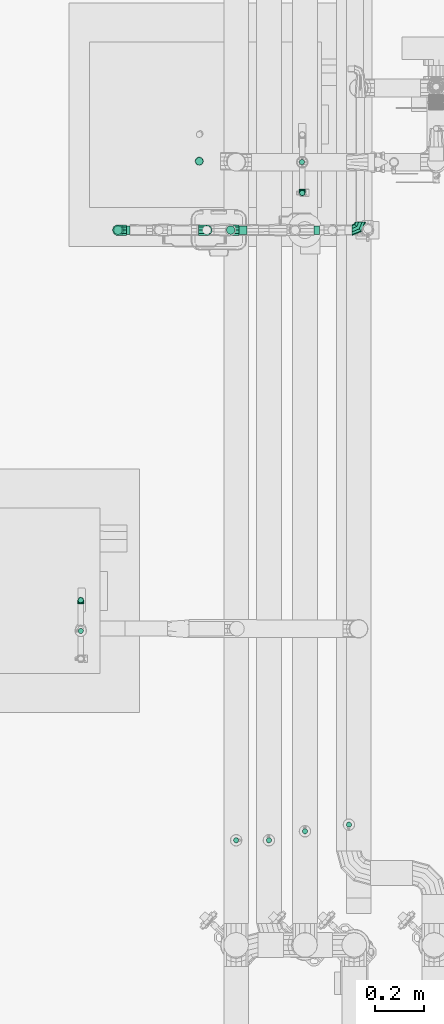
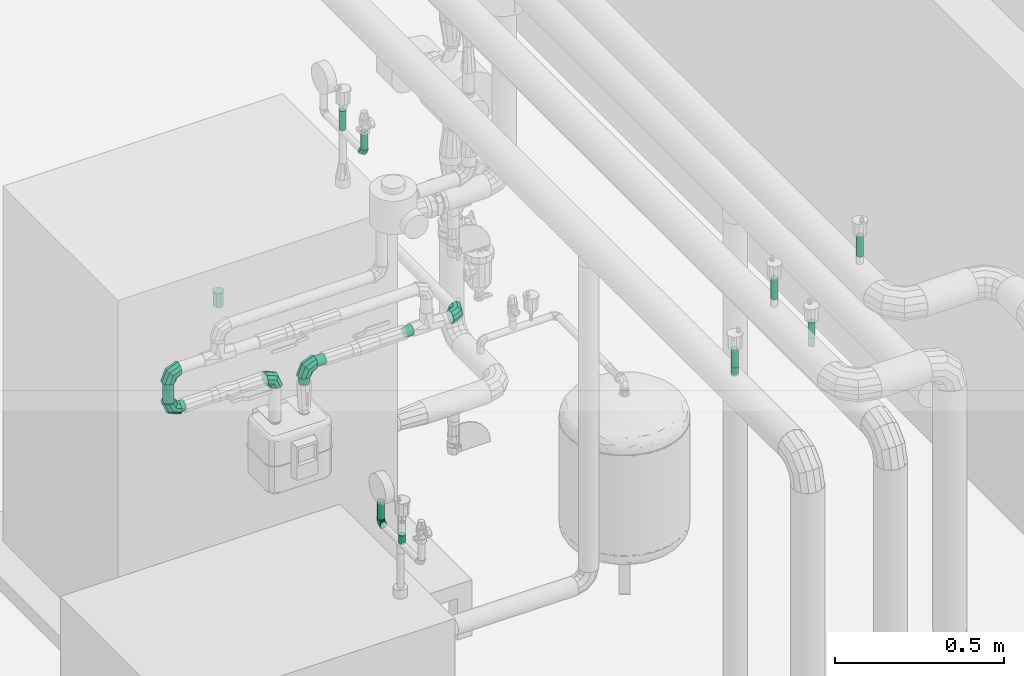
# One storey, part 27 of 43: 13 flow segments, 11 flow fittings.
"""IFC2X3 building model written with IfcOpenShell, lengths in millimetres."""

from ifc_helpers import new_model, entity, si_unit, converted_unit, derived_unit, direction, frame, frame_2d, origin, origin_2d_with_axis, place, context, subcontext, project, spatial, circle, extrude, faceted_brep, source, transform, mapped, material, material_list, type_object, type_shapes, element, save


model = new_model("IFC2X3")

# Units and contexts
model_context = context("Model", 3, precision=0.01, world=origin(), true_north=direction((6.123031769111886e-17, 1.0)))
body_context = subcontext(model_context, "Body", "Model", "MODEL_VIEW")
ifc_project = project(units=[si_unit("LENGTHUNIT", "METRE", prefix="MILLI"), si_unit("AREAUNIT", "SQUARE_METRE"), si_unit("VOLUMEUNIT", "CUBIC_METRE"), converted_unit("PLANEANGLEUNIT", "DEGREE", entity("IfcRatioMeasure", 0.017453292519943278), si_unit("PLANEANGLEUNIT", "RADIAN"), dimensions=[0, 0, 0, 0, 0, 0, 0]), si_unit("MASSUNIT", "GRAM", prefix="KILO"), derived_unit("MASSDENSITYUNIT", [(si_unit("MASSUNIT", "GRAM", prefix="KILO"), 1), (si_unit("LENGTHUNIT", "METRE"), -3)]), derived_unit("MOMENTOFINERTIAUNIT", [(si_unit("LENGTHUNIT", "METRE"), 4)]), si_unit("TIMEUNIT", "SECOND"), si_unit("FREQUENCYUNIT", "HERTZ"), si_unit("THERMODYNAMICTEMPERATUREUNIT", "DEGREE_CELSIUS"), derived_unit("THERMALTRANSMITTANCEUNIT", [(si_unit("MASSUNIT", "GRAM", prefix="KILO"), 1), (si_unit("THERMODYNAMICTEMPERATUREUNIT", "KELVIN"), -1), (si_unit("TIMEUNIT", "SECOND"), -3)]), derived_unit("VOLUMETRICFLOWRATEUNIT", [(si_unit("LENGTHUNIT", "METRE"), 3), (si_unit("TIMEUNIT", "SECOND"), -1)]), derived_unit("MASSFLOWRATEUNIT", [(si_unit("MASSUNIT", "GRAM", prefix="KILO"), 1), (si_unit("TIMEUNIT", "SECOND"), -1)]), derived_unit("ROTATIONALFREQUENCYUNIT", [(si_unit("TIMEUNIT", "SECOND"), -1)]), si_unit("ELECTRICCURRENTUNIT", "AMPERE"), si_unit("ELECTRICVOLTAGEUNIT", "VOLT"), si_unit("POWERUNIT", "WATT"), si_unit("FORCEUNIT", "NEWTON", prefix="KILO"), si_unit("ILLUMINANCEUNIT", "LUX"), si_unit("LUMINOUSFLUXUNIT", "LUMEN"), si_unit("LUMINOUSINTENSITYUNIT", "CANDELA"), derived_unit("USERDEFINED", [(si_unit("MASSUNIT", "GRAM", prefix="KILO"), -1), (si_unit("LENGTHUNIT", "METRE"), -2), (si_unit("TIMEUNIT", "SECOND"), 3), (si_unit("LUMINOUSFLUXUNIT", "LUMEN"), 1)]), derived_unit("SOUNDPOWERUNIT", [(si_unit("MASSUNIT", "GRAM", prefix="KILO"), 1), (si_unit("LENGTHUNIT", "METRE"), 2), (si_unit("TIMEUNIT", "SECOND"), -3)]), derived_unit("SOUNDPRESSUREUNIT", [(si_unit("MASSUNIT", "GRAM", prefix="KILO"), 1), (si_unit("LENGTHUNIT", "METRE"), -1), (si_unit("TIMEUNIT", "SECOND"), -2)]), derived_unit("LINEARVELOCITYUNIT", [(si_unit("LENGTHUNIT", "METRE"), 1), (si_unit("TIMEUNIT", "SECOND"), -1)]), si_unit("PRESSUREUNIT", "PASCAL"), derived_unit("USERDEFINED", [(si_unit("LENGTHUNIT", "METRE"), -2), (si_unit("MASSUNIT", "GRAM", prefix="KILO"), 1), (si_unit("TIMEUNIT", "SECOND"), -2)]), derived_unit("LINEARFORCEUNIT", [(si_unit("MASSUNIT", "GRAM", prefix="KILO"), 1), (si_unit("LENGTHUNIT", "METRE"), 1), (si_unit("TIMEUNIT", "SECOND"), -2), (si_unit("LENGTHUNIT", "METRE"), -1)]), derived_unit("PLANARFORCEUNIT", [(si_unit("MASSUNIT", "GRAM", prefix="KILO"), 1), (si_unit("LENGTHUNIT", "METRE"), 1), (si_unit("TIMEUNIT", "SECOND"), -2), (si_unit("LENGTHUNIT", "METRE"), -2)])], contexts=[model_context])

# Site, building, storey
site_placement = place(None, origin())
site = spatial("IfcSite", under=ifc_project, at=site_placement, Name="Default", CompositionType="ELEMENT")
building_placement = place(site_placement, origin())
building = spatial("IfcBuilding", under=site, at=building_placement, CompositionType="ELEMENT")
storey_placement = place(building_placement, frame((0.0, 0.0, 270.0)))
storey = spatial("IfcBuildingStorey", under=building, at=storey_placement, Name="Niveau 0", CompositionType="ELEMENT", Elevation=270.0)

# Flow segments
pipe_segment_type_1 = type_object("IfcPipeSegmentType", Name="Canalisation:tube acier", PredefinedType="NOTDEFINED")
flow_segment_1_placement = place(storey_placement, origin())
element("IfcFlowSegment", 1, at=flow_segment_1_placement, inside=storey, type_object=pipe_segment_type_1, Name="Canalisation:tube acier", ObjectType="Canalisation:tube acier", context=body_context, shape_type="SweptSolid", body=[
    extrude(circle(Radius=10.668, at=origin_2d_with_axis()), frame((-3141.435930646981, -11414.068073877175, 1706.6450211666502), z_axis=(0.0, 0.0, 1.0), x_axis=(-1.0, 0.0, 0.0)), (0.0, 0.0, 1.0), 64.09101562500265),
])
flow_segment_2_placement = place(storey_placement, origin())
element("IfcFlowSegment", 2, at=flow_segment_2_placement, inside=storey, type_object=pipe_segment_type_1, Name="Canalisation:tube acier", ObjectType="Canalisation:tube acier", context=body_context, shape_type="SweptSolid", body=[
    extrude(circle(Radius=10.668, at=origin_2d_with_axis()), frame((-2231.7732561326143, -9741.311926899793, 1707.5815748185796), z_axis=(0.0, 0.0, 1.0), x_axis=(-1.0, 0.0, 0.0)), (0.0, 0.0, 1.0), 63.15446197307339),
])
flow_segment_3_placement = place(storey_placement, origin())
element("IfcFlowSegment", 3, at=flow_segment_3_placement, inside=storey, type_object=pipe_segment_type_1, Name="Canalisation:tube acier", ObjectType="Canalisation:tube acier", context=body_context, shape_type="SweptSolid", body=[
    extrude(circle(Radius=10.668, at=frame_2d((0.0, -1.0828671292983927e-12), x_axis=(1.0, 0.0))), frame((-2233.2357465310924, -9614.739383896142, 1700.6679999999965), z_axis=(0.0, 0.0, 1.0), x_axis=(-1.0, 0.0, 0.0)), (0.0, 0.0, 1.0), 70.06803679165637),
])
flow_segment_4_placement = place(storey_placement, origin())
element("IfcFlowSegment", 4, at=flow_segment_4_placement, inside=storey, type_object=pipe_segment_type_1, Name="Canalisation:tube acier", ObjectType="Canalisation:tube acier", context=body_context, shape_type="SweptSolid", body=[
    extrude(circle(Radius=10.668, at=origin_2d_with_axis()), frame((-2503.263180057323, -12400.0, 2629.815858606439), z_axis=(0.0, 0.0, 1.0), x_axis=(-1.0, 0.0, 0.0)), (0.0, 0.0, 1.0), 64.48297292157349),
])
flow_segment_5_placement = place(storey_placement, origin())
element("IfcFlowSegment", 5, at=flow_segment_5_placement, inside=storey, type_object=pipe_segment_type_1, Name="Canalisation:tube acier", ObjectType="Canalisation:tube acier", context=body_context, shape_type="SweptSolid", body=[
    extrude(circle(Radius=10.668, at=origin_2d_with_axis()), frame((-2220.52990382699, -12363.124121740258, 2615.353718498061), z_axis=(0.0, 0.0, 1.0), x_axis=(-1.0, 0.0, 0.0)), (0.0, 0.0, 1.0), 54.99999999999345),
])
flow_segment_6_placement = place(storey_placement, origin())
element("IfcFlowSegment", 6, at=flow_segment_6_placement, inside=storey, type_object=pipe_segment_type_1, Name="Canalisation:tube acier", ObjectType="Canalisation:tube acier", context=body_context, shape_type="SweptSolid", body=[
    extrude(circle(Radius=10.668, at=origin_2d_with_axis()), frame((-2368.7954809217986, -12400.0, 2827.7650556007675), z_axis=(0.0, 0.0, 1.0), x_axis=(-1.0, 0.0, 0.0)), (0.0, 0.0, 1.0), 74.99999999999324),
])
flow_segment_7_placement = place(storey_placement, origin())
element("IfcFlowSegment", 7, at=flow_segment_7_placement, inside=storey, type_object=pipe_segment_type_1, Name="Canalisation:tube acier", ObjectType="Canalisation:tube acier", context=body_context, shape_type="SweptSolid", body=[
    extrude(circle(Radius=10.668, at=origin_2d_with_axis()), frame((-2040.0, -12335.84006919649, 2827.788358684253), z_axis=(0.0, 0.0, 1.0), x_axis=(-1.0, 0.0, 0.0)), (0.0, 0.0, 1.0), 74.97669691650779),
])
flow_segment_8_placement = place(storey_placement, origin())
element("IfcFlowSegment", 8, at=flow_segment_8_placement, inside=storey, type_object=pipe_segment_type_1, Name="Canalisation:tube acier", ObjectType="Canalisation:tube acier", context=body_context, shape_type="SweptSolid", body=[
    extrude(circle(Radius=16.7005, at=origin_2d_with_axis()), frame((-2654.769183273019, -9611.0, 1262.028181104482)), (0.0, 0.0, 1.0), 2.959318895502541),
])

# Flow fittings
ifc_material = material(Name="<Unnamed>")
ifc_material_list_1 = material_list([ifc_material, ifc_material])
pipe_fitting_type_1 = type_object("IfcPipeFittingType", Name="Coude - Générique:Standard", PredefinedType="NOTDEFINED", material=ifc_material_list_1)
shared_shape_1 = source(origin(), body_context, "Body", "Brep", [
    faceted_brep([(4.326975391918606, -4.326975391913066, 0.0), (1.6948585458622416, -1.6948585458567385, -8.986609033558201), (8.986609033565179, 15.908984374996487, -8.986609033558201), (12.70898437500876, 15.908984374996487, 0.0), (-4.659633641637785, 4.659633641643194, -12.708984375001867), (0.0, 15.908984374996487, -12.708984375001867), (-11.014125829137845, 11.014125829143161, -8.986609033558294), (-8.986609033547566, 15.908984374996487, -8.986609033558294), (-13.646242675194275, 13.646242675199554, 0.0), (-12.708984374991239, 15.908984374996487, 0.0), (-11.014125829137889, 11.014125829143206, 8.986609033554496), (-8.986609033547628, 15.908984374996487, 8.986609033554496), (-4.6596336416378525, 4.6596336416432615, 12.708984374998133), (0.0, 15.908984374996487, 12.708984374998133), (1.6948585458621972, -1.6948585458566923, 8.986609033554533), (8.986609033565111, 15.908984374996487, 8.986609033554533), (-15.908984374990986, -12.708984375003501, 0.0), (-15.908984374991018, -8.98660903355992, -8.986609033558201), (-15.9089843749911, 0.0, -12.708984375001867), (-15.908984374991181, 8.986609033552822, -8.986609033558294), (-15.908984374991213, 12.708984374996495, 0.0), (-15.908984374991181, 8.986609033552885, 8.986609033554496), (-15.9089843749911, 0.0, 12.708984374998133), (-15.908984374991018, -8.986609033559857, 8.986609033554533)], [[[0, 1, 2, 3]], [[1, 4, 5, 2]], [[4, 6, 7, 5]], [[6, 8, 9, 7]], [[8, 10, 11, 9]], [[10, 12, 13, 11]], [[12, 14, 15, 13]], [[14, 0, 3, 15]], [[16, 17, 1, 0]], [[17, 18, 4, 1]], [[18, 19, 6, 4]], [[19, 20, 8, 6]], [[20, 21, 10, 8]], [[21, 22, 12, 10]], [[22, 23, 14, 12]], [[23, 16, 0, 14]], [[3, 2, 5, 7, 9, 11, 13, 15]], [[23, 22, 21, 20, 19, 18, 17, 16]]]),
])
type_shapes(pipe_fitting_type_1, [shared_shape_1])
for number, where, z_axis, x_axis in (
    (9, (-3141.4359306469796, -11414.06807387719, 1690.7360367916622), (1.0, 0.0, 0.0), (0.0, 1.0, 0.0)),
    (10, (-2231.773256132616, -9741.311926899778, 1691.6725904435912), (-1.0, 0.0, 0.0), (0.0, -1.0, 0.0)),
):
    element("IfcFlowFitting", number, at=place(storey_placement, frame(where, z_axis=z_axis, x_axis=x_axis)), inside=storey, type_object=pipe_fitting_type_1, material=ifc_material, Name="Coude - Générique:Standard", ObjectType="Coude - Générique:Standard", context=body_context, shape_type="MappedRepresentation", body=[
        mapped(shared_shape_1, transform((0.0, 0.0, 0.0), scale=1.0)),
    ])
pipe_fitting_type_2 = type_object("IfcPipeFittingType", Name="Piquage Acier Noir droit:Longueur = 25", PredefinedType="NOTDEFINED", material=ifc_material)
shared_shape_2 = source(origin(), body_context, "Body", "Brep", [
    faceted_brep([(-6.095999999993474, 5.324999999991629, -9.223170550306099), (-6.095999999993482, 2.756422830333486, -10.287110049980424), (-6.0959999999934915, 0.0, -10.650000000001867), (-6.095999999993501, -2.7564228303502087, -10.287110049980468), (-6.095999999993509, -5.325000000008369, -9.223170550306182), (-6.095999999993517, -7.530687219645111, -7.530687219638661), (-6.0959999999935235, -9.223170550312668, -5.325000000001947), (-6.095999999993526, -10.287110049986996, -2.7564228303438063), (-6.095999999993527, -10.650000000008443, 0.0), (-6.095999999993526, -10.287110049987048, 2.7564228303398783), (-6.0959999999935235, -9.22317055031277, 5.3249999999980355), (-6.095999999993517, -7.530687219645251, 7.530687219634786), (-6.095999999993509, -5.3250000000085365, 9.22317055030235), (-6.095999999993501, -2.7564228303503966, 10.287110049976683), (-6.0959999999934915, 0.0, 10.649999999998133), (-6.095999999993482, 2.7564228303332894, 10.287110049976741), (-6.095999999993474, 5.324999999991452, 9.223170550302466), (-6.095999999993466, 7.530687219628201, 7.530687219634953), (-6.0959999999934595, 9.223170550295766, 5.324999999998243), (-6.095999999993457, 10.2871100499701, 2.7564228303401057), (-6.095999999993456, 10.649999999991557, 0.0), (-6.095999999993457, 10.287110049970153, -2.756422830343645), (-6.0959999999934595, 9.223170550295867, -5.325000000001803), (-6.095999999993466, 7.530687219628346, -7.530687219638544), (0.0, -10.28711004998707, 2.7564228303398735), (0.0, -10.650000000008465, 0.0), (25.0, -10.650000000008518, 0.0), (25.0, -10.287110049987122, 2.7564228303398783), (0.0, -9.22317055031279, 5.3249999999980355), (25.0, -9.223170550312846, 5.3249999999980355), (0.0, -7.530687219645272, 7.530687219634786), (25.0, -7.530687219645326, 7.530687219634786), (25.0, -5.325000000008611, 9.22317055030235), (0.0, -5.325000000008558, 9.22317055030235), (25.0, -2.756422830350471, 10.287110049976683), (0.0, -2.756422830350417, 10.287110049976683), (25.0, 0.0, 10.649999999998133), (0.0, 0.0, 10.649999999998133), (0.0, 5.324999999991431, 9.223170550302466), (0.0, 2.756422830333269, 10.287110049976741), (25.0, 2.756422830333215, 10.287110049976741), (25.0, 5.324999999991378, 9.223170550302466), (0.0, 7.53068721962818, 7.530687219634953), (25.0, 7.530687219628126, 7.530687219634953), (0.0, 9.223170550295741, 5.324999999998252), (25.0, 9.223170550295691, 5.324999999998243), (25.0, 10.287110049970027, 2.7564228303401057), (0.0, 10.287110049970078, 2.7564228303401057), (25.0, 10.649999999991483, 0.0), (0.0, 10.649999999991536, 0.0), (0.0, 10.287110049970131, -2.756422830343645), (25.0, 10.287110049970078, -2.756422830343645), (0.0, 9.223170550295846, -5.325000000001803), (25.0, 9.223170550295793, -5.325000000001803), (0.0, 7.530687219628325, -7.530687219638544), (25.0, 7.530687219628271, -7.530687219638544), (25.0, 5.3249999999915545, -9.223170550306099), (0.0, 5.3249999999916, -9.223170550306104), (25.0, 2.7564228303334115, -10.287110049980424), (0.0, 2.756422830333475, -10.287110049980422), (25.0, 0.0, -10.650000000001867), (0.0, 0.0, -10.650000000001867), (0.0, -5.325000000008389, -9.223170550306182), (0.0, -2.7564228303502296, -10.287110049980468), (25.0, -2.7564228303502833, -10.287110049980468), (25.0, -5.325000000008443, -9.223170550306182), (0.0, -7.530687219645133, -7.530687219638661), (25.0, -7.530687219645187, -7.530687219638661), (0.0, -9.22317055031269, -5.325000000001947), (25.0, -9.223170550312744, -5.325000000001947), (25.0, -10.28711004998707, -2.7564228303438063), (0.0, -10.287110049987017, -2.7564228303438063)], [[[0, 1, 2, 3, 4, 5, 6, 7, 8, 9, 10, 11, 12, 13, 14, 15, 16, 17, 18, 19, 20, 21, 22, 23]], [[24, 9, 8, 25, 26, 27]], [[28, 10, 9, 24, 27, 29]], [[11, 30, 31, 32, 33, 12]], [[28, 29, 31, 30, 11, 10]], [[12, 33, 32, 34, 35, 13]], [[13, 35, 34, 36, 37, 14]], [[38, 16, 15, 39, 40, 41]], [[42, 17, 16, 38, 41, 43]], [[18, 44, 45, 46, 47, 19]], [[42, 43, 45, 44, 18, 17]], [[19, 47, 46, 48, 49, 20]], [[15, 14, 37, 36, 40, 39]], [[50, 21, 20, 49, 48, 51]], [[52, 22, 21, 50, 51, 53]], [[23, 54, 55, 56, 57, 0]], [[52, 53, 55, 54, 23, 22]], [[0, 57, 56, 58, 59, 1]], [[1, 59, 58, 60, 61, 2]], [[62, 4, 3, 63, 64, 65]], [[66, 5, 4, 62, 65, 67]], [[6, 68, 69, 70, 71, 7]], [[66, 67, 69, 68, 6, 5]], [[7, 71, 70, 26, 25, 8]], [[3, 2, 61, 60, 64, 63]], [[60, 58, 56, 55, 53, 51, 48, 46, 45, 43, 41, 40, 36, 34, 32, 31, 29, 27, 26, 70, 69, 67, 65, 64]]]),
])
type_shapes(pipe_fitting_type_2, [shared_shape_2])
flow_fitting_1_placement = place(storey_placement, frame((-3141.4359306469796, -11540.055119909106, 1701.4040367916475), z_axis=(-1.0, 0.0, 0.0), x_axis=(0.0, 0.0, 1.0)))
element("IfcFlowFitting", 11, at=flow_fitting_1_placement, inside=storey, type_object=pipe_fitting_type_2, material=ifc_material, Name="Piquage Acier Noir droit:Longueur = 25", ObjectType="Piquage Acier Noir droit:Longueur = 25", context=body_context, shape_type="MappedRepresentation", body=[
    mapped(shared_shape_2, transform((0.0, 0.0, 0.0), scale=1.0)),
])
pipe_fitting_type_3 = type_object("IfcPipeFittingType", Name="Piquage Acier Noir droit:Longueur = 25", PredefinedType="NOTDEFINED", material=ifc_material)
shared_shape_3 = source(origin(), body_context, "Body", "Brep", [
    faceted_brep([(-6.6526919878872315, 0.0, -10.650000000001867), (-6.652691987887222, -2.756422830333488, -10.287110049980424), (-6.652691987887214, -5.324999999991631, -9.223170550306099), (-6.652691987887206, -7.530687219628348, -7.530687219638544), (-6.6526919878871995, -9.223170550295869, -5.325000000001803), (-6.652691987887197, -10.287110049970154, -2.756422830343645), (-6.652691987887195, -10.649999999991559, 0.0), (-6.652691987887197, -10.287110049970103, 2.7564228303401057), (-6.6526919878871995, -9.223170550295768, 5.324999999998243), (-6.652691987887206, -7.530687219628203, 7.530687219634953), (-6.652691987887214, -5.324999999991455, 9.223170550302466), (-6.652691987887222, -2.756422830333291, 10.287110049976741), (-6.6526919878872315, 0.0, 10.649999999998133), (-6.652691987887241, 2.756422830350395, 10.287110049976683), (-6.652691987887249, 5.325000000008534, 9.22317055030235), (-6.652691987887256, 7.530687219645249, 7.530687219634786), (-6.6526919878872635, 9.223170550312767, 5.3249999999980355), (-6.652691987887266, 10.287110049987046, 2.7564228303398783), (-6.652691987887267, 10.650000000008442, 0.0), (-6.652691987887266, 10.287110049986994, -2.7564228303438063), (-6.6526919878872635, 9.223170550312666, -5.325000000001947), (-6.652691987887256, 7.53068721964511, -7.530687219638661), (-6.652691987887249, 5.325000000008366, -9.223170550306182), (-6.652691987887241, 2.756422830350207, -10.287110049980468), (0.0, 10.650000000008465, 0.0), (0.0, 10.28711004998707, 2.7564228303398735), (25.0, 10.287110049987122, 2.7564228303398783), (25.0, 10.650000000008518, 0.0), (0.0, 9.22317055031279, 5.3249999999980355), (25.0, 9.223170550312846, 5.3249999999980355), (0.0, 5.325000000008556, 9.22317055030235), (25.0, 5.325000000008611, 9.22317055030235), (25.0, 7.530687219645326, 7.530687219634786), (0.0, 7.530687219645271, 7.530687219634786), (0.0, 2.7564228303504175, 10.287110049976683), (25.0, 2.756422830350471, 10.287110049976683), (0.0, 0.0, 10.649999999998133), (25.0, 0.0, 10.649999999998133), (0.0, -2.7564228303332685, 10.287110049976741), (0.0, -5.324999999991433, 9.223170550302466), (25.0, -5.324999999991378, 9.223170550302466), (25.0, -2.756422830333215, 10.287110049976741), (0.0, -7.530687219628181, 7.530687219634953), (25.0, -7.530687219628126, 7.530687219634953), (0.0, -10.287110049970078, 2.7564228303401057), (25.0, -10.287110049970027, 2.7564228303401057), (25.0, -9.223170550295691, 5.324999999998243), (0.0, -9.223170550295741, 5.324999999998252), (0.0, -10.649999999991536, 0.0), (25.0, -10.649999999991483, 0.0), (0.0, -10.287110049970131, -2.756422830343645), (25.0, -10.287110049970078, -2.756422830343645), (0.0, -9.223170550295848, -5.325000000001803), (25.0, -9.223170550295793, -5.325000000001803), (0.0, -5.324999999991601, -9.223170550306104), (25.0, -5.3249999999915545, -9.223170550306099), (25.0, -7.530687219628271, -7.530687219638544), (0.0, -7.530687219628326, -7.530687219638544), (0.0, -2.7564228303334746, -10.287110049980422), (25.0, -2.7564228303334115, -10.287110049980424), (0.0, 0.0, -10.650000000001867), (25.0, 0.0, -10.650000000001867), (0.0, 2.75642283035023, -10.287110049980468), (0.0, 5.325000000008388, -9.223170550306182), (25.0, 5.325000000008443, -9.223170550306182), (25.0, 2.7564228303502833, -10.287110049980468), (0.0, 7.530687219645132, -7.530687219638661), (25.0, 7.530687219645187, -7.530687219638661), (0.0, 10.287110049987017, -2.7564228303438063), (25.0, 10.28711004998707, -2.7564228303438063), (25.0, 9.223170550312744, -5.325000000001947), (0.0, 9.22317055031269, -5.325000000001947)], [[[0, 1, 2, 3, 4, 5, 6, 7, 8, 9, 10, 11, 12, 13, 14, 15, 16, 17, 18, 19, 20, 21, 22, 23]], [[24, 18, 17, 25, 26, 27]], [[25, 17, 16, 28, 29, 26]], [[30, 31, 32, 33, 15, 14]], [[16, 15, 33, 32, 29, 28]], [[34, 35, 31, 30, 14, 13]], [[12, 36, 37, 35, 34, 13]], [[38, 11, 10, 39, 40, 41]], [[39, 10, 9, 42, 43, 40]], [[44, 45, 46, 47, 8, 7]], [[9, 8, 47, 46, 43, 42]], [[48, 49, 45, 44, 7, 6]], [[38, 41, 37, 36, 12, 11]], [[48, 6, 5, 50, 51, 49]], [[50, 5, 4, 52, 53, 51]], [[54, 55, 56, 57, 3, 2]], [[4, 3, 57, 56, 53, 52]], [[58, 59, 55, 54, 2, 1]], [[0, 60, 61, 59, 58, 1]], [[62, 23, 22, 63, 64, 65]], [[63, 22, 21, 66, 67, 64]], [[68, 69, 70, 71, 20, 19]], [[21, 20, 71, 70, 67, 66]], [[24, 27, 69, 68, 19, 18]], [[62, 65, 61, 60, 0, 23]], [[55, 59, 61, 65, 64, 67, 70, 69, 27, 26, 29, 32, 31, 35, 37, 41, 40, 43, 46, 45, 49, 51, 53, 56]]]),
])
type_shapes(pipe_fitting_type_3, [shared_shape_3])
for number, where, z_axis, x_axis in (
    (12, (-2503.2631800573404, -12400.0, 2604.815858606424), (0.0, 1.0, 0.0), (0.0, 0.0, 1.0)),
    (13, (-2220.529903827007, -12363.124121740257, 2590.353718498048), (0.0, 1.0, 0.0), (0.0, 0.0, 1.0)),
):
    element("IfcFlowFitting", number, at=place(storey_placement, frame(where, z_axis=z_axis, x_axis=x_axis)), inside=storey, type_object=pipe_fitting_type_3, material=ifc_material, Name="Piquage Acier Noir droit:Longueur = 25", ObjectType="Piquage Acier Noir droit:Longueur = 25", context=body_context, shape_type="MappedRepresentation", body=[
        mapped(shared_shape_3, transform((0.0, 0.0, 0.0), scale=1.0)),
    ])
pipe_fitting_type_4 = type_object("IfcPipeFittingType", Name="Transformation - Générique:Standard", PredefinedType="NOTDEFINED", material=ifc_material)
shared_shape_4 = source(origin(), body_context, "Body", "Brep", [
    faceted_brep([(51.0, 16.20898437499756, 0.0), (51.0, 15.022108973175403, 2.865370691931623), (51.0, 13.835233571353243, 5.7307413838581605), (51.0, 12.648358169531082, 8.5961120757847), (51.0, 11.46148276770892, 11.461482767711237), (51.0, 8.596112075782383, 12.648358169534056), (51.0, 5.730741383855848, 13.835233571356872), (51.0, 2.8653706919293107, 15.022108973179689), (51.0, 0.0, 16.208984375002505), (51.0, -2.8653706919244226, 15.022108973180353), (51.0, -5.730741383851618, 13.8352335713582), (51.0, -8.596112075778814, 12.648358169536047), (51.0, -11.461482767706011, 11.461482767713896), (51.0, -12.648358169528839, 8.596112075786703), (51.0, -13.835233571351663, 5.730741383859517), (51.0, -15.02210897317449, 2.86537069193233), (51.0, -16.20898437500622, 0.0), (51.0, -15.022108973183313, -2.865370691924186), (51.0, -13.835233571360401, -5.730741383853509), (51.0, -12.64835816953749, -8.596112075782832), (51.0, -11.46148276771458, -11.461482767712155), (51.0, -8.596112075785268, -12.648358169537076), (51.0, -5.730741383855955, -13.835233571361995), (51.0, -2.8653706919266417, -15.022108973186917), (51.0, 0.0, -16.208984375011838), (51.0, 2.8653706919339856, -15.022108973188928), (51.0, 5.7307413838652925, -13.835233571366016), (51.0, 8.5961120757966, -12.648358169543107), (51.0, 11.46148276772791, -11.4614827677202), (51.0, 12.64835816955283, -8.596112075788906), (51.0, 13.835233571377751, -5.73074138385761), (51.0, 15.022108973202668, -2.865370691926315), (0.0, 11.808683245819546, 11.808683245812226), (0.0, 13.031512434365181, 8.85651243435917), (0.0, 14.254341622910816, 5.904341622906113), (0.0, 15.19070999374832, 3.643748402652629), (0.0, 16.700000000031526, 0.0), (0.0, 15.19070999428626, -3.643748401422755), (0.0, 13.681419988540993, -7.287496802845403), (0.0, 11.808683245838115, -11.808683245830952), (0.0, 8.856512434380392, -13.031512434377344), (0.0, 5.904341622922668, -14.254341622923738), (0.0, 2.952170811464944, -15.477170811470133), (0.0, 0.0, -16.700000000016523), (0.0, -2.9521708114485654, -15.477170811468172), (0.0, -5.904341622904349, -14.254341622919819), (0.0, -8.856512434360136, -13.031512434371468), (0.0, -11.808683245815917, -11.808683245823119), (0.0, -13.03151243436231, -8.856512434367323), (0.0, -14.254341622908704, -5.904341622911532), (0.0, -15.19070999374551, -3.6437484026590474), (0.0, -16.699999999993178, 0.0), (0.0, -15.190709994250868, 3.6437484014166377), (0.0, -13.681419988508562, 7.287496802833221), (0.0, -11.808683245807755, 11.808683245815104), (0.0, -8.856512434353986, 13.031512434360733), (0.0, -5.904341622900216, 14.25434162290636), (0.0, -2.9521708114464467, 15.477170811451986), (0.0, 0.0, 16.699999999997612), (0.0, 2.9521708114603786, 15.477170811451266), (0.0, 5.904341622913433, 14.25434162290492), (0.0, 8.856512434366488, 13.031512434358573)], [[[0, 1, 2, 3, 4, 5, 6, 7, 8, 9, 10, 11, 12, 13, 14, 15, 16, 17, 18, 19, 20, 21, 22, 23, 24, 25, 26, 27, 28, 29, 30, 31]], [[32, 33, 34, 35, 36, 37, 38, 39, 40, 41, 42, 43, 44, 45, 46, 47, 48, 49, 50, 51, 52, 53, 54, 55, 56, 57, 58, 59, 60, 61]], [[39, 38, 37, 36, 0, 31, 30, 29, 28]], [[47, 20, 19, 18, 17, 16, 51, 50, 49, 48]], [[25, 24, 43, 42, 41, 40, 39, 28, 27, 26]], [[44, 43, 24, 23, 22, 21, 20, 47, 46, 45]], [[54, 53, 52, 51, 16, 15, 14, 13, 12]], [[32, 4, 3, 2, 1, 0, 36, 35, 34, 33]], [[9, 8, 58, 57, 56, 55, 54, 12, 11, 10]], [[59, 58, 8, 7, 6, 5, 4, 32, 61, 60]]]),
])
type_shapes(pipe_fitting_type_4, [shared_shape_4])
flow_fitting_2_placement = place(storey_placement, frame((-2654.7691832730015, -9611.0, 1262.0281811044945), z_axis=(0.0, -1.0, 0.0), x_axis=(0.0, 0.0, -1.0)))
element("IfcFlowFitting", 14, at=flow_fitting_2_placement, inside=storey, type_object=pipe_fitting_type_4, material=ifc_material, Name="Transformation - Générique:Standard", ObjectType="Transformation - Générique:Standard", context=body_context, shape_type="MappedRepresentation", body=[
    mapped(shared_shape_4, transform((0.0, 0.0, 0.0), scale=1.0)),
])

# Flow segments
pipe_segment_type_2 = type_object("IfcPipeSegmentType", Name="Canalisation:tuyau cuivre", PredefinedType="NOTDEFINED")
flow_segment_9_placement = place(storey_placement, origin())
element("IfcFlowSegment", 15, at=flow_segment_9_placement, inside=storey, type_object=pipe_segment_type_2, Name="Canalisation:tuyau cuivre", ObjectType="Canalisation:tuyau cuivre", context=body_context, shape_type="SweptSolid", body=[
    extrude(circle(Radius=17.5, at=origin_2d_with_axis()), frame((-2491.2882812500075, -9894.089173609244, 1120.4999999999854), z_axis=(1.0, 0.0, 0.0), x_axis=(0.0, 1.0, 0.0)), (0.0, 0.0, 1.0), 31.87442137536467),
])
flow_segment_10_placement = place(storey_placement, origin())
element("IfcFlowSegment", 16, at=flow_segment_10_placement, inside=storey, type_object=pipe_segment_type_2, Name="Canalisation:tuyau cuivre", ObjectType="Canalisation:tuyau cuivre", context=body_context, shape_type="SweptSolid", body=[
    extrude(circle(Radius=17.5, at=origin_2d_with_axis()), frame((-2525.4999999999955, -9894.089173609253, 1060.272234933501), z_axis=(0.0, 0.0, 1.0), x_axis=(-1.0, 0.0, 0.0)), (0.0, 0.0, 1.0), 26.016046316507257),
])
flow_segment_11_placement = place(storey_placement, origin())
element("IfcFlowSegment", 17, at=flow_segment_11_placement, inside=storey, type_object=pipe_segment_type_2, Name="Canalisation:tuyau cuivre", ObjectType="Canalisation:tuyau cuivre", context=body_context, shape_type="SweptSolid", body=[
    extrude(circle(Radius=17.5, at=frame_2d((-6.497202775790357e-12, 0.0), x_axis=(1.0, 0.0))), frame((-2184.4482348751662, -9894.089173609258, 1120.5000000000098), z_axis=(1.0, 0.0, 0.0), x_axis=(0.0, 1.0, 0.0)), (0.0, 0.0, 1.0), 23.86796577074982),
])
flow_segment_12_placement = place(storey_placement, origin())
element("IfcFlowSegment", 18, at=flow_segment_12_placement, inside=storey, type_object=pipe_segment_type_2, Name="Canalisation:tuyau cuivre", ObjectType="Canalisation:tuyau cuivre", context=body_context, shape_type="SweptSolid", body=[
    extrude(circle(Radius=17.5, at=frame_2d((3.6817482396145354e-11, 2.707167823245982e-13), x_axis=(1.0, 0.0))), frame((-2954.3326128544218, -9894.08917360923, 1120.5000000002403), z_axis=(1.0, 0.0, 0.0), x_axis=(0.0, 1.0, 0.0)), (0.0, 0.0, 1.0), 15.78828125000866),
])
flow_segment_13_placement = place(storey_placement, origin())
element("IfcFlowSegment", 19, at=flow_segment_13_placement, inside=storey, type_object=pipe_segment_type_2, Name="Canalisation:tuyau cuivre", ObjectType="Canalisation:tuyau cuivre", context=body_context, shape_type="SweptSolid", body=[
    extrude(circle(Radius=17.5, at=origin_2d_with_axis()), frame((-2988.544331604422, -9894.089173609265, 1154.711718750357), z_axis=(0.0, 0.0, 1.0), x_axis=(-1.0, 0.0, 0.0)), (0.0, 0.0, 1.0), 71.57656250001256),
])

# Flow fittings
ifc_material_list_2 = material_list([ifc_material, ifc_material])
pipe_fitting_type_5 = type_object("IfcPipeFittingType", Name="Coude - Générique:Standard", PredefinedType="NOTDEFINED", material=ifc_material_list_2)
shared_shape_5 = source(origin(), body_context, "Body", "Brep", [
    faceted_brep([(6.037296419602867, -6.0372964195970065, 0.0), (2.9705530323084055, -2.970553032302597, -13.348006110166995), (18.371954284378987, 34.21171874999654, -13.348006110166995), (22.70898437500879, 34.21171874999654, 0.0), (-5.0582853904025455, 5.0582853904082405, -21.597527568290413), (7.017462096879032, 34.21171874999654, -21.597527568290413), (-14.982475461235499, 14.982475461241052, -21.597527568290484), (-7.017462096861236, 34.21171874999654, -21.597527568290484), (-23.011313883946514, 23.011313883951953, -13.348006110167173), (-18.37195428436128, 34.21171874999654, -13.348006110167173), (-26.078057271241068, 26.078057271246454, 0.0), (-22.708984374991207, 34.21171874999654, 0.0), (-23.011313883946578, 23.011313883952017, 13.348006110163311), (-18.371954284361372, 34.21171874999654, 13.348006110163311), (-14.98247546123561, 14.982475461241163, 21.59752756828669), (-7.0174620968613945, 34.21171874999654, 21.59752756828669), (-5.058285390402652, 5.058285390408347, 21.59752756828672), (7.017462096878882, 34.21171874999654, 21.59752756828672), (2.9705530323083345, -2.9705530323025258, 13.348006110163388), (18.371954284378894, 34.21171874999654, 13.348006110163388), (-34.21171874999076, -22.708984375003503, 0.0), (-34.21171874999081, -18.371954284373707, -13.348006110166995), (-34.2117187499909, -7.01746209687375, -21.597527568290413), (-34.21171874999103, 7.0174620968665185, -21.597527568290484), (-34.21171874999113, 18.371954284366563, -13.348006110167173), (-34.21171874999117, 22.70898437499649, 0.0), (-34.21171874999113, 18.371954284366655, 13.348006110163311), (-34.21171874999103, 7.0174620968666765, 21.59752756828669), (-34.2117187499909, -7.017462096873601, 21.59752756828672), (-34.21171874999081, -18.371954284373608, 13.348006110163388)], [[[0, 1, 2, 3]], [[1, 4, 5, 2]], [[4, 6, 7, 5]], [[6, 8, 9, 7]], [[8, 10, 11, 9]], [[10, 12, 13, 11]], [[12, 14, 15, 13]], [[14, 16, 17, 15]], [[16, 18, 19, 17]], [[18, 0, 3, 19]], [[20, 21, 1, 0]], [[21, 22, 4, 1]], [[22, 23, 6, 4]], [[23, 24, 8, 6]], [[24, 25, 10, 8]], [[25, 26, 12, 10]], [[26, 27, 14, 12]], [[27, 28, 16, 14]], [[28, 29, 18, 16]], [[29, 20, 0, 18]], [[3, 2, 5, 7, 9, 11, 13, 15, 17, 19]], [[29, 28, 27, 26, 25, 24, 23, 22, 21, 20]]]),
])
type_shapes(pipe_fitting_type_5, [shared_shape_5])
flow_fitting_3_placement = place(storey_placement, frame((-1992.6000093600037, -9894.08917360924, 1120.5000000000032)))
element("IfcFlowFitting", 20, at=flow_fitting_3_placement, inside=storey, type_object=pipe_fitting_type_5, material=ifc_material, Name="Coude - Générique:Standard", ObjectType="Coude - Générique:Standard", context=body_context, shape_type="MappedRepresentation", body=[
    mapped(shared_shape_5, transform((0.0, 0.0, 0.0), scale=1.0)),
])
for number, where, z_axis, x_axis in (
    (21, (-2525.500000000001, -9894.089173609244, 1120.5), (0.0, -1.0, 0.0), (-1.0, 0.0, 0.0)),
    (22, (-2624.411319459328, -9894.089173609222, 1120.500000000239), (0.0, 1.0, 0.0), (1.0, 0.0, 0.0)),
    (23, (-2988.5443316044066, -9894.089173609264, 1120.500000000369), (0.0, 1.0, 0.0), (-1.0, 0.0, 0.0)),
    (24, (-2988.5443316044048, -9894.089173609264, 1260.5000000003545), (0.0, 1.0, 0.0), (0.0, 0.0, 1.0)),
):
    element("IfcFlowFitting", number, at=place(storey_placement, frame(where, z_axis=z_axis, x_axis=x_axis)), inside=storey, type_object=pipe_fitting_type_5, material=ifc_material, Name="Coude - Générique:Standard", ObjectType="Coude - Générique:Standard", context=body_context, shape_type="MappedRepresentation", body=[
        mapped(shared_shape_5, transform((0.0, 0.0, 0.0), scale=1.0)),
    ])

save(model, "model.ifc")
